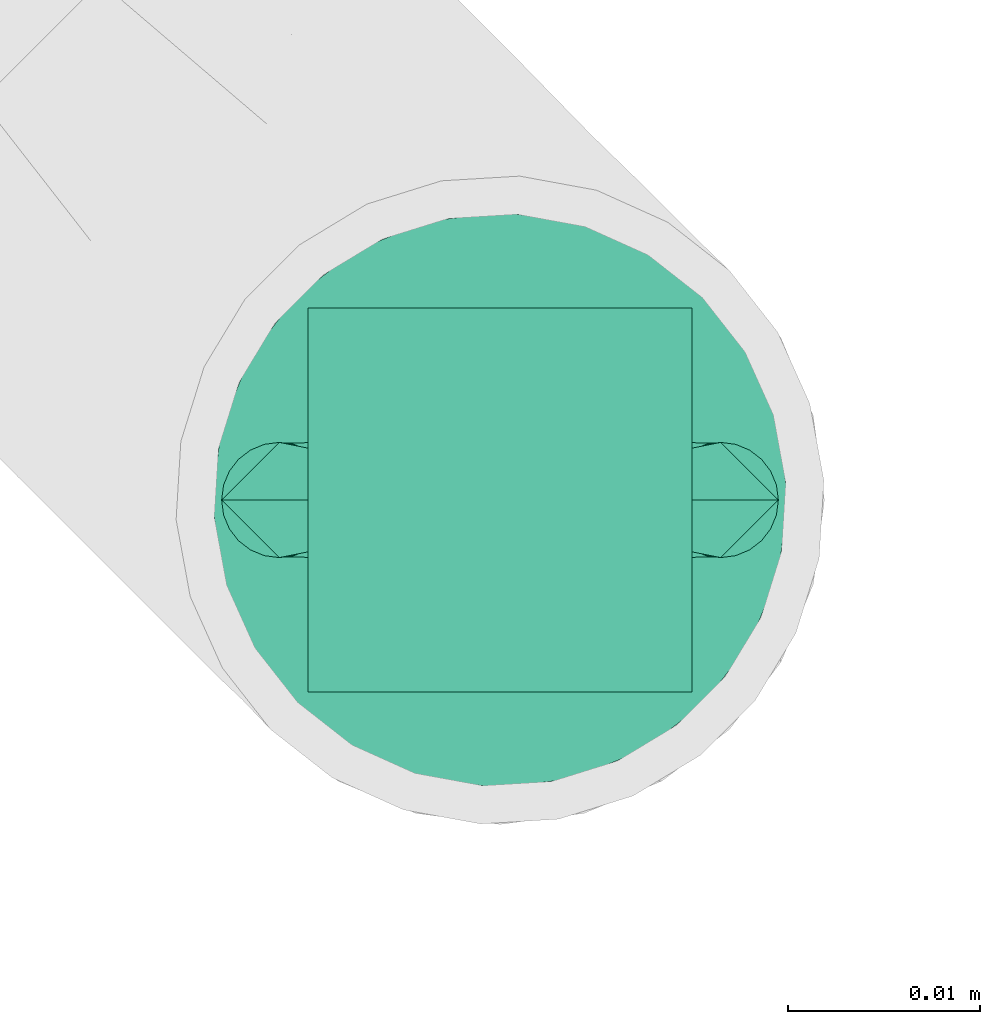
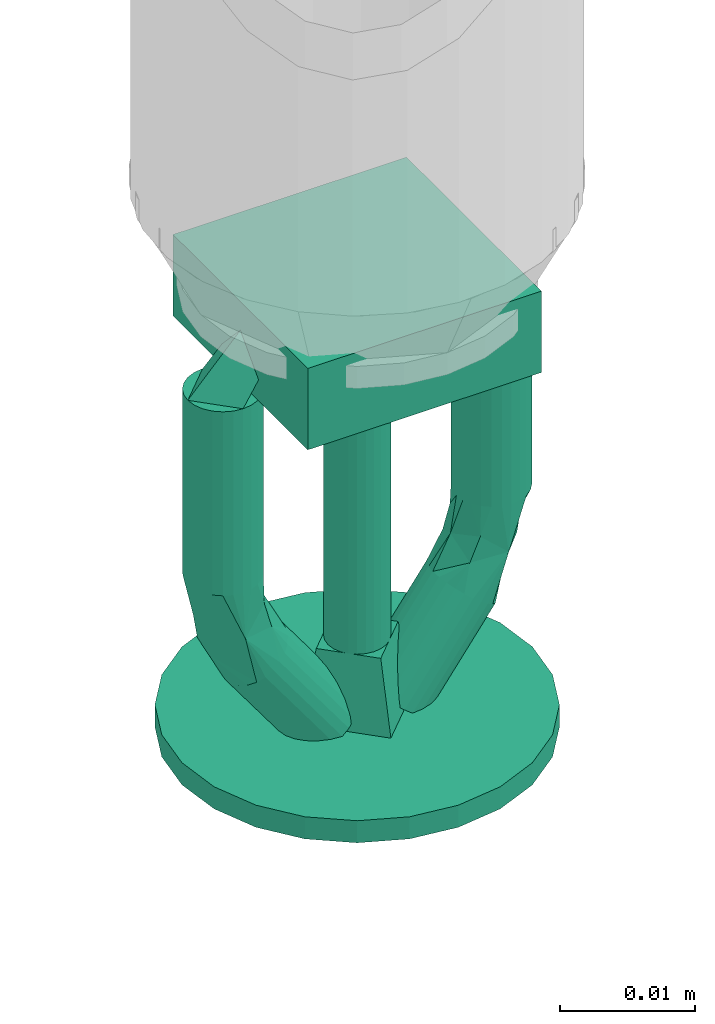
# One storey, part 13 of 17: 1 flow terminal.
"""IFC2X3 building model written with IfcOpenShell, lengths in millimetres."""

from ifc_helpers import new_model, entity, si_unit, converted_unit, derived_unit, direction, frame, origin_with_axes, place, context, subcontext, project, spatial, open_shell, surface_model, source, transform, mapped, type_object, element, save


model = new_model("IFC2X3")

# Units and contexts
model_context = context("Model", 3, precision=0.01, world=frame((0.0, 4.29681676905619e-09, 0.0)), true_north=direction((4.01073788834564e-13, 1.0)))
plan_context = context("Plan", 3, precision=0.01, world=frame((0.0, 4.29681676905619e-09, 0.0)), true_north=direction((4.01073788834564e-13, 1.0)))
body_context = subcontext(model_context, "Body", "Model", "MODEL_VIEW")
ifc_project = project(units=[converted_unit("PLANEANGLEUNIT", "DEGREE", entity("IfcPositiveLengthMeasure", 0.0174532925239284), si_unit("PLANEANGLEUNIT", "RADIAN"), dimensions=[0, 0, 0, 0, 0, 0, 0]), si_unit("AREAUNIT", "SQUARE_METRE"), si_unit("LENGTHUNIT", "METRE", prefix="MILLI"), si_unit("MASSUNIT", "GRAM", prefix="KILO"), si_unit("POWERUNIT", "WATT"), si_unit("PRESSUREUNIT", "PASCAL", prefix="KILO"), si_unit("FORCEUNIT", "NEWTON", prefix="KILO"), si_unit("ELECTRICVOLTAGEUNIT", "VOLT"), si_unit("ELECTRICCURRENTUNIT", "AMPERE"), si_unit("THERMODYNAMICTEMPERATUREUNIT", "DEGREE_CELSIUS"), si_unit("TIMEUNIT", "SECOND"), si_unit("VOLUMEUNIT", "CUBIC_METRE"), derived_unit("LINEARVELOCITYUNIT", [(si_unit("LENGTHUNIT", "METRE"), 1), (si_unit("TIMEUNIT", "SECOND"), -1)]), derived_unit("VOLUMETRICFLOWRATEUNIT", [(si_unit("VOLUMEUNIT", "CUBIC_METRE"), 1), (si_unit("TIMEUNIT", "SECOND"), -1)]), derived_unit("THERMALTRANSMITTANCEUNIT", [(si_unit("POWERUNIT", "WATT"), 1), (si_unit("THERMODYNAMICTEMPERATUREUNIT", "KELVIN"), -1), (si_unit("AREAUNIT", "SQUARE_METRE"), -1)]), derived_unit("SOUNDPRESSUREUNIT", [(si_unit("PRESSUREUNIT", "PASCAL"), 1)])], contexts=[model_context, plan_context])

# Site, building, storey
site_placement = place(None, frame((0.0, -4.29681676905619e-09, 0.0), z_axis=(0.0, 0.0, 1.0), x_axis=(1.0, 0.0, 0.0)))
site = spatial("IfcSite", under=ifc_project, at=site_placement, CompositionType="ELEMENT")
building_placement = place(site_placement, frame((0.0, 4.29681676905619e-09, 0.0), z_axis=(0.0, 0.0, 1.0), x_axis=(1.0, 0.0, 0.0)))
building = spatial("IfcBuilding", under=site, at=building_placement, Name="mc-building", CompositionType="ELEMENT")
storey_placement = place(building_placement, frame((0.0, 0.0, 204000.0), z_axis=(0.0, 0.0, 1.0), x_axis=(1.0, 0.0, 0.0)))
storey = spatial("IfcBuildingStorey", under=building, at=storey_placement, Name="Nivå D", CompositionType="ELEMENT", Elevation=204000.0)

# Flow terminal
fire_suppression_terminal_type = type_object("IfcFireSuppressionTerminalType", Name="BLP-K115-141C-STD", PredefinedType="NOTDEFINED")
shared_shape = source(origin_with_axes(), body_context, "Body", "SurfaceModel", [
    surface_model("IfcShellBasedSurfaceModel", [(10.0, 10.0, 7.36842), (-10.0, 10.0, 7.36842), (-10.0, -10.0, 7.36842), (10.0, -10.0, 7.36842), (10.0, -10.0, 0.0), (-10.0, -10.0, 0.0), (-10.0, 10.0, 0.0), (10.0, 10.0, 0.0), (3.88229, -14.48889, 42.0), (-3.88229, -14.48889, 42.0), (0.0, -15.0, 42.0), (14.48889, -3.88229, 42.0), (7.5, -12.99038, 42.0), (12.99038, -7.5, 42.0), (10.6066, -10.6066, 42.0), (-10.6066, -10.6066, 42.0), (-7.5, -12.99038, 42.0), (-14.48889, -3.88229, 42.0), (-12.99038, -7.5, 42.0), (-12.99038, 7.5, 42.0), (-15.0, 0.0, 42.0), (14.48889, 3.88229, 42.0), (3.88229, 14.48889, 42.0), (12.99038, 7.5, 42.0), (10.6066, 10.6066, 42.0), (7.5, 12.99038, 42.0), (-7.5, 12.99038, 42.0), (-10.6066, 10.6066, 42.0), (-14.48889, 3.88229, 42.0), (0.0, 15.0, 42.0), (-3.88229, 14.48889, 42.0), (15.0, 0.0, 42.0), (10.6066, 10.6066, 40.0), (0.0, 15.0, 40.0), (3.88229, 14.48889, 40.0), (7.5, 12.99038, 40.0), (12.99038, 7.5, 40.0), (14.48889, 3.88229, 40.0), (-15.0, 0.0, 40.0), (-7.5, 12.99038, 40.0), (-12.99038, 7.5, 40.0), (-10.6066, 10.6066, 40.0), (-3.88229, 14.48889, 40.0), (-14.48889, 3.88229, 40.0), (15.0, 0.0, 40.0), (14.48889, -3.88229, 40.0), (-3.88229, -14.48889, 40.0), (3.88229, -14.48889, 40.0), (12.99038, -7.5, 40.0), (7.5, -12.99038, 40.0), (10.6066, -10.6066, 40.0), (-14.48889, -3.88229, 40.0), (-10.6066, -10.6066, 40.0), (-12.99038, -7.5, 40.0), (-7.5, -12.99038, 40.0), (0.0, -15.0, 40.0), (0.0, -2.5, 33.68421), (0.64705, -2.41481, 33.68421), (1.25, -2.16506, 33.68421), (-1.25, -2.16506, 33.68421), (2.16506, -1.25, 33.68421), (1.76777, -1.76777, 33.68421), (-1.25, 2.16506, 33.68421), (-2.16506, -1.25, 33.68421), (-1.76777, -1.76777, 33.68421), (-0.64705, -2.41481, 33.68421), (-2.41481, -0.64705, 33.68421), (-2.5, 0.0, 33.68421), (-2.41481, 0.64705, 33.68421), (2.41481, -0.64705, 33.68421), (1.25, 2.16506, 33.68421), (2.5, 0.0, 33.68421), (2.41481, 0.64705, 33.68421), (1.76777, 1.76777, 33.68421), (2.16506, 1.25, 33.68421), (0.64705, 2.41481, 33.68421), (-1.76777, 1.76777, 33.68421), (-2.16506, 1.25, 33.68421), (0.0, 2.5, 33.68421), (-0.64705, 2.41481, 33.68421), (0.0, 2.5, 7.36842), (0.64705, 2.41481, 7.36842), (1.25, 2.16506, 7.36842), (-1.25, 2.16506, 7.36842), (1.76777, 1.76777, 7.36842), (2.16506, 1.25, 7.36842), (2.41481, 0.64705, 7.36842), (-2.41481, 0.64705, 7.36842), (-1.76777, 1.76777, 7.36842), (-0.64705, 2.41481, 7.36842), (-2.16506, 1.25, 7.36842), (-2.5, 0.0, 7.36842), (2.5, 0.0, 7.36842), (2.41481, -0.64705, 7.36842), (2.16506, -1.25, 7.36842), (-1.25, -2.16506, 7.36842), (1.25, -2.16506, 7.36842), (1.76777, -1.76777, 7.36842), (0.0, -2.5, 7.36842), (0.64705, -2.41481, 7.36842), (-2.16506, -1.25, 7.36842), (-1.76777, -1.76777, 7.36842), (-2.41481, -0.64705, 7.36842), (-0.64705, -2.41481, 7.36842), (0.0, -5.0, 40.0), (5.0, 0.0, 40.0), (-5.0, 0.0, 40.0), (0.0, 5.0, 40.0), (3.5, 0.0, 33.68421), (0.0, -3.5, 33.68421), (0.0, 3.5, 33.68421), (-3.5, 0.0, 33.68421), (13.0, -2.59808, 7.36842), (12.27646, -2.89778, 7.36842), (11.5, -3.0, 7.36842), (10.72354, -2.89778, 7.36842), (14.09808, -1.5, 7.36842), (13.62132, -2.12132, 7.36842), (14.39778, -0.77646, 7.36842), (10.0, -2.59808, 7.36842), (9.37868, -2.12132, 7.36842), (8.60222, -0.77646, 7.36842), (8.90192, -1.5, 7.36842), (8.5, 0.0, 7.36842), (8.60222, 0.77646, 7.36842), (14.5, 0.0, 7.36842), (14.09808, 1.5, 7.36842), (14.39778, 0.77646, 7.36842), (13.0, 2.59808, 7.36842), (13.62132, 2.12132, 7.36842), (12.27646, 2.89778, 7.36842), (8.90192, 1.5, 7.36842), (9.37868, 2.12132, 7.36842), (10.0, 2.59808, 7.36842), (10.72354, 2.89778, 7.36842), (11.5, 3.0, 7.36842), (8.60222, 0.77646, 21.40351), (8.5, 0.0, 21.40351), (8.90192, 1.5, 21.40351), (9.37868, 2.12132, 21.40351), (10.0, 2.59808, 21.40351), (10.72354, 2.89778, 21.40351), (11.5, 3.0, 21.40351), (13.0, 2.59808, 21.40351), (12.27646, 2.89778, 21.40351), (13.62132, 2.12132, 21.40351), (14.09808, 1.5, 21.40351), (14.39778, 0.77646, 21.40351), (14.5, 0.0, 21.40351), (14.39778, -0.77646, 21.40351), (14.09808, -1.5, 21.40351), (13.62132, -2.12132, 21.40351), (13.0, -2.59808, 21.40351), (12.27646, -2.89778, 21.40351), (11.5, -3.0, 21.40351), (10.0, -2.59808, 21.40351), (10.72354, -2.89778, 21.40351), (9.37868, -2.12132, 21.40351), (8.90192, -1.5, 21.40351), (8.60222, -0.77646, 21.40351), (8.60222, 0.77646, 24.01797), (8.5, 0.0, 24.01797), (8.90192, 1.5, 24.01797), (9.37868, 2.12132, 24.01797), (10.0, 2.59808, 24.01797), (10.72354, 2.89778, 24.01797), (11.5, 3.0, 24.01797), (13.0, 2.59808, 24.01797), (12.27646, 2.89778, 24.01797), (13.62132, 2.12132, 24.01797), (14.09808, 1.5, 24.01797), (14.39778, 0.77646, 24.01797), (14.5, 0.0, 24.01797), (14.39778, -0.77646, 24.01797), (14.09808, -1.5, 24.01797), (13.62132, -2.12132, 24.01797), (13.0, -2.59808, 24.01797), (12.27646, -2.89778, 24.01797), (11.5, -3.0, 24.01797), (10.0, -2.59808, 24.01797), (10.72354, -2.89778, 24.01797), (9.37868, -2.12132, 24.01797), (8.90192, -1.5, 24.01797), (8.60222, -0.77646, 24.01797), (14.03116, 0.0, 26.95469), (8.89443, 3.0, 31.97044), (11.26864, 2.96638, 28.30794), (8.26852, 2.89778, 31.51096), (13.68288, 0.0, 29.13626), (9.23197, 2.26965, 26.65145), (7.98113, 0.0, 27.26812), (8.39468, 2.17743, 28.77318), (6.47609, 0.0, 30.19515), (6.55849, 0.77646, 30.25565), (6.80009, 1.5, 30.433), (7.1844, 2.12132, 30.71512), (11.23037, 0.77646, 33.68523), (11.31277, 0.0, 33.74572), (12.67267, 0.0, 31.10095), (7.68526, 2.59808, 31.0828), (9.52034, 2.89778, 32.42991), (10.1036, 2.59808, 32.85808), (10.60445, 2.12132, 33.22575), (10.98877, 1.5, 33.50787), (11.26864, -2.96638, 28.30794), (9.20533, -2.17689, 26.29582), (8.63781, -2.27879, 28.50134), (10.1036, -2.59808, 32.85808), (9.52034, -2.89778, 32.42991), (8.89443, -3.0, 31.97044), (10.98877, -1.5, 33.50787), (10.60445, -2.12132, 33.22575), (11.23037, -0.77646, 33.68523), (6.55849, -0.77646, 30.25565), (8.26852, -2.89778, 31.51096), (7.68526, -2.59808, 31.0828), (7.1844, -2.12132, 30.71512), (6.80009, -1.5, 30.433), (3.0, -3.0, 40.0), (3.62591, -2.89778, 40.45948), (4.20917, -2.59808, 40.88764), (5.09434, -1.5, 41.53744), (1.28997, -2.12132, 38.74469), (4.71003, -2.12132, 41.25532), (1.79083, 2.59808, 39.11236), (0.90566, -1.5, 38.46256), (1.79083, -2.59808, 39.11236), (2.37409, -2.89778, 39.54052), (0.58166, 0.0, 38.22472), (0.66406, -0.77646, 38.28521), (1.28997, 2.12132, 38.74469), (5.33594, -0.77646, 41.71479), (4.71003, 2.12132, 41.25532), (5.33594, 0.77646, 41.71479), (5.09434, 1.5, 41.53744), (4.20917, 2.59808, 40.88764), (3.62591, 2.89778, 40.45948), (3.0, 3.0, 40.0), (0.66406, 0.77646, 38.28521), (0.90566, 1.5, 38.46256), (2.37409, 2.89778, 39.54052), (5.41834, 0.0, 41.77528), (-10.0, -2.59808, 7.36842), (-10.72354, -2.89778, 7.36842), (-11.5, -3.0, 7.36842), (-12.27646, -2.89778, 7.36842), (-8.60222, -0.77646, 7.36842), (-8.90192, -1.5, 7.36842), (-9.37868, -2.12132, 7.36842), (-13.0, -2.59808, 7.36842), (-13.62132, -2.12132, 7.36842), (-14.39778, -0.77646, 7.36842), (-14.09808, -1.5, 7.36842), (-14.5, 0.0, 7.36842), (-10.0, 2.59808, 7.36842), (-8.90192, 1.5, 7.36842), (-8.60222, 0.77646, 7.36842), (-14.39778, 0.77646, 7.36842), (-9.37868, 2.12132, 7.36842), (-10.72354, 2.89778, 7.36842), (-14.09808, 1.5, 7.36842), (-13.62132, 2.12132, 7.36842), (-13.0, 2.59808, 7.36842), (-12.27646, 2.89778, 7.36842), (-11.5, 3.0, 7.36842), (-8.5, 0.0, 7.36842), (-14.39778, 0.77646, 21.40351), (-14.5, 0.0, 21.40351), (-14.09808, 1.5, 21.40351), (-13.62132, 2.12132, 21.40351), (-13.0, 2.59808, 21.40351), (-12.27646, 2.89778, 21.40351), (-11.5, 3.0, 21.40351), (-10.0, 2.59808, 21.40351), (-10.72354, 2.89778, 21.40351), (-9.37868, 2.12132, 21.40351), (-8.90192, 1.5, 21.40351), (-8.60222, 0.77646, 21.40351), (-8.5, 0.0, 21.40351), (-8.60222, -0.77646, 21.40351), (-8.90192, -1.5, 21.40351), (-9.37868, -2.12132, 21.40351), (-10.0, -2.59808, 21.40351), (-10.72354, -2.89778, 21.40351), (-11.5, -3.0, 21.40351), (-13.0, -2.59808, 21.40351), (-12.27646, -2.89778, 21.40351), (-13.62132, -2.12132, 21.40351), (-14.09808, -1.5, 21.40351), (-14.39778, -0.77646, 21.40351), (-14.39778, 0.77646, 24.01797), (-14.5, 0.0, 24.01797), (-14.09808, 1.5, 24.01797), (-13.62132, 2.12132, 24.01797), (-13.0, 2.59808, 24.01797), (-12.27646, 2.89778, 24.01797), (-11.5, 3.0, 24.01797), (-10.0, 2.59808, 24.01797), (-10.72354, 2.89778, 24.01797), (-9.37868, 2.12132, 24.01797), (-8.90192, 1.5, 24.01797), (-8.60222, 0.77646, 24.01797), (-8.5, 0.0, 24.01797), (-8.60222, -0.77646, 24.01797), (-8.90192, -1.5, 24.01797), (-9.37868, -2.12132, 24.01797), (-10.0, -2.59808, 24.01797), (-10.72354, -2.89778, 24.01797), (-11.5, -3.0, 24.01797), (-13.0, -2.59808, 24.01797), (-12.27646, -2.89778, 24.01797), (-13.62132, -2.12132, 24.01797), (-14.09808, -1.5, 24.01797), (-14.39778, -0.77646, 24.01797), (-14.03116, 0.0, 26.95469), (-11.26864, 2.96638, 28.30794), (-9.20533, 2.17689, 26.29582), (-7.98113, 0.0, 27.26812), (-13.68288, 0.0, 29.13626), (-12.67267, 0.0, 31.10095), (-8.63781, 2.27879, 28.50134), (-10.1036, 2.59808, 32.85808), (-9.52034, 2.89778, 32.42991), (-8.89443, 3.0, 31.97044), (-10.98877, 1.5, 33.50787), (-10.60445, 2.12132, 33.22575), (-11.23037, 0.77646, 33.68523), (-11.31277, 0.0, 33.74572), (-6.55849, 0.77646, 30.25565), (-6.47609, 0.0, 30.19515), (-8.26852, 2.89778, 31.51096), (-7.68526, 2.59808, 31.0828), (-7.1844, 2.12132, 30.71512), (-6.80009, 1.5, 30.433), (-8.89443, -3.0, 31.97044), (-11.26864, -2.96638, 28.30794), (-8.26852, -2.89778, 31.51096), (-9.23197, -2.26965, 26.65145), (-8.39468, -2.17743, 28.77318), (-6.55849, -0.77646, 30.25565), (-6.80009, -1.5, 30.433), (-7.1844, -2.12132, 30.71512), (-11.23037, -0.77646, 33.68523), (-7.68526, -2.59808, 31.0828), (-9.52034, -2.89778, 32.42991), (-10.1036, -2.59808, 32.85808), (-10.60445, -2.12132, 33.22575), (-10.98877, -1.5, 33.50787), (-3.62591, -2.89778, 40.45948), (-3.0, -3.0, 40.0), (-2.37409, -2.89778, 39.54052), (-1.79083, -2.59808, 39.11236), (-1.28997, -2.12132, 38.74469), (-0.90566, -1.5, 38.46256), (-0.66406, -0.77646, 38.28521), (-4.71003, -2.12132, 41.25532), (-4.20917, -2.59808, 40.88764), (-5.09434, -1.5, 41.53744), (-5.41834, 0.0, 41.77528), (-5.33594, -0.77646, 41.71479), (-4.20917, 2.59808, 40.88764), (-5.33594, 0.77646, 41.71479), (-0.58166, 0.0, 38.22472), (-0.66406, 0.77646, 38.28521), (-0.90566, 1.5, 38.46256), (-1.28997, 2.12132, 38.74469), (-1.79083, 2.59808, 39.11236), (-2.37409, 2.89778, 39.54052), (-3.0, 3.0, 40.0), (-4.71003, 2.12132, 41.25532), (-5.09434, 1.5, 41.53744), (-3.62591, 2.89778, 40.45948), (-6.5, 2.0, 1.0), (-4.5, 0.0, 1.0), (-6.5, -2.0, 1.0), (-8.5, 0.0, 1.0), (-7.5, 1.0, 1.0), (-13.0, 1.5, 7.36842), (-10.16667, 1.66667, 7.36842), (-5.5, 1.0, 1.0), (-5.5, -1.0, 1.0), (-10.0, -1.5, 7.36842), (-12.83333, -1.66667, 7.36842), (-7.5, -1.0, 1.0), (4.5, 0.0, 1.0), (6.5, 2.0, 1.0), (8.5, 0.0, 1.0), (6.5, -2.0, 1.0), (5.5, -1.0, 1.0), (12.83333, -1.66667, 7.36842), (10.16667, -1.66667, 7.36842), (7.5, -1.0, 1.0), (7.5, 1.0, 1.0), (10.16667, 1.66667, 7.36842), (12.83333, 1.66667, 7.36842), (5.5, 1.0, 1.0)], [open_shell([[[0, 1, 2]], [[2, 3, 0]], [[4, 5, 6]], [[6, 7, 4]], [[2, 1, 6]], [[6, 5, 2]], [[3, 2, 5]], [[5, 4, 3]], [[0, 3, 4]], [[4, 7, 0]], [[1, 0, 7]], [[7, 6, 1]], [[8, 9, 10]], [[11, 8, 12]], [[13, 11, 12]], [[13, 12, 14]], [[9, 8, 11]], [[9, 15, 16]], [[15, 9, 17]], [[15, 17, 18]], [[9, 11, 17]], [[17, 19, 20]], [[17, 11, 19]], [[19, 11, 21]], [[22, 21, 23]], [[24, 25, 22]], [[24, 22, 23]], [[19, 21, 22]], [[19, 26, 27]], [[28, 20, 19]], [[26, 29, 30]], [[29, 26, 19]], [[22, 29, 19]], [[11, 31, 21]], [[32, 33, 34]], [[32, 34, 35]], [[32, 36, 37]], [[33, 32, 38]], [[38, 32, 37]], [[39, 40, 41]], [[39, 42, 33]], [[40, 38, 43]], [[39, 33, 40]], [[33, 38, 40]], [[37, 44, 38]], [[45, 46, 44]], [[47, 45, 48]], [[49, 47, 48]], [[49, 48, 50]], [[46, 45, 47]], [[51, 52, 53]], [[52, 51, 46]], [[52, 46, 54]], [[51, 44, 46]], [[47, 55, 46]], [[44, 51, 38]], [[51, 17, 38]], [[53, 18, 51]], [[16, 52, 54]], [[53, 52, 15]], [[9, 54, 46]], [[51, 18, 17]], [[17, 20, 38]], [[9, 16, 54]], [[15, 52, 16]], [[15, 18, 53]], [[10, 9, 46]], [[46, 55, 10]], [[47, 8, 55]], [[49, 12, 47]], [[13, 50, 48]], [[49, 50, 14]], [[11, 48, 45]], [[49, 14, 12]], [[12, 8, 47]], [[31, 11, 45]], [[13, 48, 11]], [[13, 14, 50]], [[44, 31, 45]], [[55, 8, 10]], [[37, 21, 44]], [[36, 23, 37]], [[25, 32, 35]], [[36, 32, 24]], [[22, 35, 34]], [[37, 23, 21]], [[21, 31, 44]], [[22, 25, 35]], [[24, 32, 25]], [[24, 23, 36]], [[29, 22, 34]], [[34, 33, 29]], [[42, 30, 33]], [[39, 26, 42]], [[19, 41, 40]], [[39, 41, 27]], [[28, 40, 43]], [[39, 27, 26]], [[26, 30, 42]], [[20, 28, 43]], [[19, 40, 28]], [[19, 27, 41]], [[38, 20, 43]], [[33, 30, 29]], [[56, 57, 58]], [[59, 56, 58]], [[58, 60, 59]], [[60, 58, 61]], [[60, 62, 59]], [[59, 63, 64]], [[59, 65, 56]], [[59, 66, 63]], [[66, 59, 67]], [[59, 68, 67]], [[62, 60, 69]], [[70, 71, 72]], [[73, 72, 74]], [[62, 69, 70]], [[70, 72, 73]], [[62, 70, 75]], [[68, 76, 77]], [[76, 68, 62]], [[62, 78, 79]], [[68, 59, 62]], [[75, 78, 62]], [[70, 69, 71]], [[80, 81, 82]], [[83, 80, 82]], [[84, 85, 86]], [[83, 82, 84]], [[83, 84, 86]], [[83, 87, 88]], [[83, 89, 80]], [[88, 87, 90]], [[87, 83, 91]], [[86, 91, 83]], [[86, 92, 91]], [[92, 93, 94]], [[95, 92, 94]], [[95, 94, 96]], [[96, 94, 97]], [[98, 96, 99]], [[100, 95, 101]], [[95, 100, 102]], [[95, 98, 103]], [[102, 91, 95]], [[96, 98, 95]], [[95, 91, 92]], [[102, 66, 91]], [[100, 63, 102]], [[59, 101, 95]], [[100, 101, 64]], [[65, 95, 103]], [[102, 63, 66]], [[66, 67, 91]], [[65, 59, 95]], [[64, 101, 59]], [[64, 63, 100]], [[56, 65, 103]], [[103, 98, 56]], [[99, 57, 98]], [[96, 58, 99]], [[60, 97, 94]], [[96, 97, 61]], [[69, 94, 93]], [[96, 61, 58]], [[58, 57, 99]], [[71, 69, 93]], [[60, 94, 69]], [[60, 61, 97]], [[92, 71, 93]], [[98, 57, 56]], [[86, 72, 92]], [[85, 74, 86]], [[70, 84, 82]], [[85, 84, 73]], [[75, 82, 81]], [[86, 74, 72]], [[72, 71, 92]], [[75, 70, 82]], [[73, 84, 70]], [[73, 74, 85]], [[78, 75, 81]], [[81, 80, 78]], [[89, 79, 80]], [[83, 62, 89]], [[77, 88, 90]], [[83, 88, 76]], [[68, 90, 87]], [[83, 76, 62]], [[62, 79, 89]], [[67, 68, 87]], [[77, 90, 68]], [[77, 76, 88]], [[91, 67, 87]], [[80, 79, 78]], [[104, 105, 106]], [[107, 106, 105]], [[108, 109, 110]], [[111, 110, 109]], [[106, 111, 104]], [[104, 111, 109]], [[109, 108, 105]], [[109, 105, 104]], [[105, 108, 107]], [[107, 108, 110]], [[110, 111, 106]], [[110, 106, 107]], [[112, 113, 114]], [[112, 114, 115]], [[116, 112, 115]], [[117, 112, 116]], [[118, 116, 119]], [[120, 121, 119]], [[116, 115, 119]], [[122, 121, 120]], [[121, 118, 119]], [[121, 123, 124]], [[125, 118, 121]], [[126, 127, 125]], [[126, 125, 124]], [[124, 128, 126]], [[129, 126, 128]], [[128, 124, 130]], [[131, 132, 124]], [[133, 124, 132]], [[134, 135, 133]], [[124, 133, 135]], [[135, 130, 124]], [[121, 124, 125]], [[136, 123, 137]], [[138, 124, 136]], [[132, 139, 140]], [[138, 139, 131]], [[133, 140, 141]], [[138, 131, 124]], [[124, 123, 136]], [[134, 142, 135]], [[134, 133, 141]], [[132, 140, 133]], [[132, 131, 139]], [[142, 134, 141]], [[143, 130, 144]], [[145, 128, 143]], [[126, 146, 147]], [[145, 146, 129]], [[127, 147, 148]], [[143, 128, 130]], [[130, 135, 144]], [[127, 126, 147]], [[129, 146, 126]], [[129, 128, 145]], [[125, 127, 148]], [[144, 135, 142]], [[149, 125, 148]], [[150, 118, 149]], [[117, 151, 152]], [[150, 151, 116]], [[112, 152, 153]], [[150, 116, 118]], [[118, 125, 149]], [[113, 154, 114]], [[113, 112, 153]], [[117, 152, 112]], [[117, 116, 151]], [[154, 113, 153]], [[155, 115, 156]], [[157, 119, 155]], [[122, 158, 159]], [[157, 158, 120]], [[121, 159, 137]], [[155, 119, 115]], [[115, 114, 156]], [[121, 122, 159]], [[120, 158, 122]], [[120, 119, 157]], [[123, 121, 137]], [[156, 114, 154]], [[160, 137, 161]], [[162, 136, 160]], [[139, 163, 164]], [[162, 163, 138]], [[140, 164, 165]], [[162, 138, 136]], [[136, 137, 160]], [[141, 166, 142]], [[141, 140, 165]], [[139, 164, 140]], [[139, 138, 163]], [[166, 141, 165]], [[167, 144, 168]], [[169, 143, 167]], [[146, 170, 171]], [[169, 170, 145]], [[147, 171, 172]], [[167, 143, 144]], [[144, 142, 168]], [[147, 146, 171]], [[145, 170, 146]], [[145, 143, 169]], [[148, 147, 172]], [[168, 142, 166]], [[173, 148, 172]], [[174, 149, 173]], [[151, 175, 176]], [[174, 175, 150]], [[152, 176, 177]], [[174, 150, 149]], [[149, 148, 173]], [[153, 178, 154]], [[153, 152, 177]], [[151, 176, 152]], [[151, 150, 175]], [[178, 153, 177]], [[179, 156, 180]], [[181, 155, 179]], [[158, 182, 183]], [[181, 182, 157]], [[159, 183, 161]], [[179, 155, 156]], [[156, 154, 180]], [[159, 158, 183]], [[157, 182, 158]], [[157, 155, 181]], [[137, 159, 161]], [[180, 154, 178]], [[170, 184, 171]], [[185, 186, 187]], [[188, 184, 186]], [[165, 186, 166]], [[189, 160, 190]], [[163, 162, 189]], [[190, 191, 189]], [[160, 189, 162]], [[189, 186, 165]], [[164, 163, 189]], [[184, 172, 171]], [[170, 169, 184]], [[184, 167, 186]], [[184, 169, 167]], [[168, 186, 167]], [[166, 186, 168]], [[160, 161, 190]], [[192, 193, 191]], [[193, 194, 191]], [[195, 191, 194]], [[191, 190, 192]], [[191, 187, 186]], [[196, 197, 198]], [[191, 199, 187]], [[200, 186, 185]], [[189, 165, 164]], [[191, 195, 199]], [[201, 202, 198]], [[200, 201, 186]], [[198, 203, 196]], [[198, 188, 186]], [[198, 202, 203]], [[201, 198, 186]], [[189, 191, 186]], [[174, 184, 175]], [[176, 175, 184]], [[204, 176, 184]], [[178, 177, 204]], [[204, 177, 176]], [[173, 184, 174]], [[205, 190, 161]], [[188, 198, 204]], [[205, 204, 206]], [[205, 179, 180]], [[205, 181, 179]], [[182, 205, 183]], [[161, 183, 205]], [[181, 205, 182]], [[180, 204, 205]], [[173, 172, 184]], [[188, 204, 184]], [[204, 198, 207]], [[207, 208, 204]], [[190, 205, 206]], [[208, 209, 204]], [[198, 210, 211]], [[198, 211, 207]], [[212, 198, 197]], [[213, 192, 190]], [[213, 190, 206]], [[210, 198, 212]], [[214, 204, 209]], [[214, 215, 206]], [[206, 216, 217]], [[206, 204, 214]], [[216, 206, 215]], [[213, 206, 217]], [[178, 204, 180]], [[218, 219, 220]], [[218, 220, 221]], [[218, 221, 222]], [[221, 220, 223]], [[221, 224, 225]], [[218, 226, 227]], [[218, 222, 226]], [[225, 228, 229]], [[222, 221, 225]], [[225, 230, 228]], [[221, 231, 232]], [[231, 233, 232]], [[232, 233, 234]], [[232, 235, 236]], [[232, 224, 221]], [[237, 232, 236]], [[238, 230, 239]], [[238, 228, 230]], [[232, 240, 224]], [[225, 224, 230]], [[237, 240, 232]], [[241, 233, 231]], [[238, 192, 228]], [[239, 193, 238]], [[195, 230, 224]], [[239, 230, 194]], [[199, 224, 240]], [[239, 194, 193]], [[193, 192, 238]], [[187, 237, 185]], [[187, 199, 240]], [[195, 224, 199]], [[195, 194, 230]], [[237, 187, 240]], [[235, 200, 236]], [[232, 201, 235]], [[203, 234, 233]], [[232, 234, 202]], [[196, 233, 241]], [[235, 201, 200]], [[200, 185, 236]], [[196, 203, 233]], [[202, 234, 203]], [[202, 201, 232]], [[197, 196, 241]], [[236, 185, 237]], [[231, 197, 241]], [[221, 212, 231]], [[211, 223, 220]], [[221, 223, 210]], [[207, 220, 219]], [[221, 210, 212]], [[212, 197, 231]], [[208, 218, 209]], [[208, 207, 219]], [[211, 220, 207]], [[211, 210, 223]], [[218, 208, 219]], [[226, 214, 227]], [[222, 215, 226]], [[217, 225, 229]], [[222, 225, 216]], [[213, 229, 228]], [[226, 215, 214]], [[214, 209, 227]], [[213, 217, 229]], [[216, 225, 217]], [[216, 215, 222]], [[192, 213, 228]], [[227, 209, 218]], [[242, 243, 244]], [[242, 244, 245]], [[246, 247, 248]], [[242, 246, 248]], [[246, 242, 249]], [[250, 251, 249]], [[242, 245, 249]], [[252, 251, 250]], [[249, 251, 246]], [[253, 254, 251]], [[254, 246, 251]], [[246, 255, 256]], [[246, 254, 255]], [[257, 254, 253]], [[258, 255, 254]], [[259, 254, 257]], [[260, 261, 257]], [[262, 257, 261]], [[263, 264, 262]], [[257, 262, 264]], [[264, 259, 257]], [[256, 265, 246]], [[266, 253, 267]], [[268, 257, 266]], [[261, 269, 270]], [[268, 269, 260]], [[262, 270, 271]], [[268, 260, 257]], [[257, 253, 266]], [[263, 272, 264]], [[263, 262, 271]], [[261, 270, 262]], [[261, 260, 269]], [[272, 263, 271]], [[273, 259, 274]], [[275, 254, 273]], [[255, 276, 277]], [[275, 276, 258]], [[256, 277, 278]], [[273, 254, 259]], [[259, 264, 274]], [[256, 255, 277]], [[258, 276, 255]], [[258, 254, 275]], [[265, 256, 278]], [[274, 264, 272]], [[279, 265, 278]], [[280, 246, 279]], [[248, 281, 282]], [[280, 281, 247]], [[242, 282, 283]], [[280, 247, 246]], [[246, 265, 279]], [[243, 284, 244]], [[243, 242, 283]], [[248, 282, 242]], [[248, 247, 281]], [[284, 243, 283]], [[285, 245, 286]], [[287, 249, 285]], [[252, 288, 289]], [[287, 288, 250]], [[251, 289, 267]], [[285, 249, 245]], [[245, 244, 286]], [[251, 252, 289]], [[250, 288, 252]], [[250, 249, 287]], [[253, 251, 267]], [[286, 244, 284]], [[290, 267, 291]], [[292, 266, 290]], [[269, 293, 294]], [[292, 293, 268]], [[270, 294, 295]], [[292, 268, 266]], [[266, 267, 290]], [[271, 296, 272]], [[271, 270, 295]], [[269, 294, 270]], [[269, 268, 293]], [[296, 271, 295]], [[297, 274, 298]], [[299, 273, 297]], [[276, 300, 301]], [[299, 300, 275]], [[277, 301, 302]], [[297, 273, 274]], [[274, 272, 298]], [[277, 276, 301]], [[275, 300, 276]], [[275, 273, 299]], [[278, 277, 302]], [[298, 272, 296]], [[303, 278, 302]], [[304, 279, 303]], [[281, 305, 306]], [[304, 305, 280]], [[282, 306, 307]], [[304, 280, 279]], [[279, 278, 303]], [[283, 308, 284]], [[283, 282, 307]], [[281, 306, 282]], [[281, 280, 305]], [[308, 283, 307]], [[309, 286, 310]], [[311, 285, 309]], [[288, 312, 313]], [[311, 312, 287]], [[289, 313, 291]], [[309, 285, 286]], [[286, 284, 310]], [[289, 288, 313]], [[287, 312, 288]], [[287, 285, 311]], [[267, 289, 291]], [[310, 284, 308]], [[292, 314, 293]], [[294, 293, 314]], [[315, 294, 314]], [[296, 295, 315]], [[315, 295, 294]], [[290, 314, 292]], [[316, 317, 302]], [[318, 319, 315]], [[316, 315, 320]], [[316, 297, 298]], [[316, 299, 297]], [[300, 316, 301]], [[302, 301, 316]], [[299, 316, 300]], [[298, 315, 316]], [[290, 291, 314]], [[318, 315, 314]], [[315, 319, 321]], [[321, 322, 315]], [[317, 316, 320]], [[322, 323, 315]], [[319, 324, 325]], [[319, 325, 321]], [[326, 319, 327]], [[328, 329, 317]], [[328, 317, 320]], [[324, 319, 326]], [[330, 315, 323]], [[330, 331, 320]], [[320, 332, 333]], [[320, 315, 330]], [[332, 320, 331]], [[328, 320, 333]], [[296, 315, 298]], [[312, 314, 313]], [[334, 335, 336]], [[318, 314, 335]], [[307, 335, 308]], [[337, 303, 317]], [[305, 304, 337]], [[317, 338, 337]], [[303, 337, 304]], [[337, 335, 307]], [[306, 305, 337]], [[314, 291, 313]], [[312, 311, 314]], [[314, 309, 335]], [[314, 311, 309]], [[310, 335, 309]], [[308, 335, 310]], [[303, 302, 317]], [[329, 339, 338]], [[339, 340, 338]], [[341, 338, 340]], [[338, 317, 329]], [[338, 336, 335]], [[342, 327, 319]], [[338, 343, 336]], [[344, 335, 334]], [[337, 307, 306]], [[338, 341, 343]], [[345, 346, 319]], [[344, 345, 335]], [[319, 347, 342]], [[319, 318, 335]], [[319, 346, 347]], [[345, 319, 335]], [[337, 338, 335]], [[348, 349, 350]], [[351, 348, 350]], [[352, 353, 354]], [[352, 354, 351]], [[348, 351, 354]], [[348, 355, 356]], [[355, 348, 357]], [[357, 358, 359]], [[360, 357, 348]], [[357, 361, 358]], [[360, 348, 354]], [[362, 363, 364]], [[364, 360, 354]], [[360, 365, 366]], [[364, 365, 360]], [[366, 367, 368]], [[361, 369, 370]], [[369, 361, 360]], [[360, 368, 371]], [[361, 357, 360]], [[366, 368, 360]], [[364, 354, 362]], [[361, 327, 358]], [[370, 326, 361]], [[325, 369, 360]], [[370, 369, 324]], [[321, 360, 371]], [[370, 324, 326]], [[326, 327, 361]], [[322, 368, 323]], [[322, 321, 371]], [[325, 360, 321]], [[325, 324, 369]], [[368, 322, 371]], [[366, 330, 367]], [[365, 331, 366]], [[333, 364, 363]], [[365, 364, 332]], [[328, 363, 362]], [[366, 331, 330]], [[330, 323, 367]], [[328, 333, 363]], [[332, 364, 333]], [[332, 331, 365]], [[329, 328, 362]], [[367, 323, 368]], [[354, 329, 362]], [[353, 339, 354]], [[341, 352, 351]], [[353, 352, 340]], [[343, 351, 350]], [[353, 340, 339]], [[339, 329, 354]], [[336, 349, 334]], [[336, 343, 350]], [[341, 351, 343]], [[341, 340, 352]], [[349, 336, 350]], [[356, 344, 348]], [[355, 345, 356]], [[347, 357, 359]], [[355, 357, 346]], [[342, 359, 358]], [[356, 345, 344]], [[344, 334, 348]], [[347, 359, 342]], [[346, 357, 347]], [[346, 345, 355]], [[358, 327, 342]], [[348, 334, 349]], [[372, 373, 374]], [[374, 375, 372]], [[265, 264, 253]], [[253, 244, 265]], [[264, 372, 376]], [[377, 375, 253]], [[375, 377, 376]], [[264, 378, 379]], [[379, 372, 264]], [[264, 376, 377]], [[378, 373, 379]], [[378, 265, 373]], [[244, 374, 380]], [[381, 373, 265]], [[373, 381, 380]], [[244, 382, 383]], [[383, 374, 244]], [[244, 380, 381]], [[382, 375, 383]], [[382, 253, 375]], [[135, 123, 114]], [[114, 125, 135]], [[384, 385, 386]], [[386, 387, 384]], [[388, 387, 114]], [[386, 125, 389]], [[114, 390, 388]], [[390, 123, 384]], [[391, 114, 387]], [[114, 391, 389]], [[391, 386, 389]], [[390, 384, 388]], [[392, 385, 135]], [[384, 123, 393]], [[135, 394, 392]], [[394, 125, 386]], [[395, 135, 385]], [[135, 395, 393]], [[395, 384, 393]], [[394, 386, 392]]])]),
])
flow_terminal_placement = place(storey_placement, frame((600314.0709, 400725.12566, 2200.95164000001), z_axis=(0.0, 0.0, -1.0), x_axis=(1.0, 0.0, 0.0)))
element("IfcFlowTerminal", 1, at=flow_terminal_placement, inside=storey, type_object=fire_suppression_terminal_type, Name="BLP-K115-141C-STD", context=body_context, shape_type="MappedRepresentation", body=[
    mapped(shared_shape, transform((0.0, 0.0, 0.0), scale=1.0)),
])

save(model, "model.ifc")
